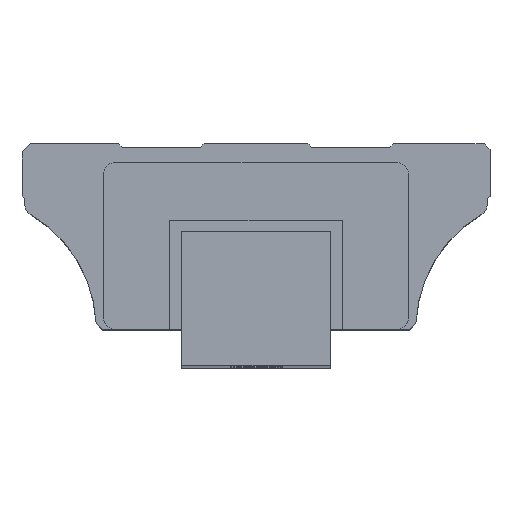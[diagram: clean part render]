
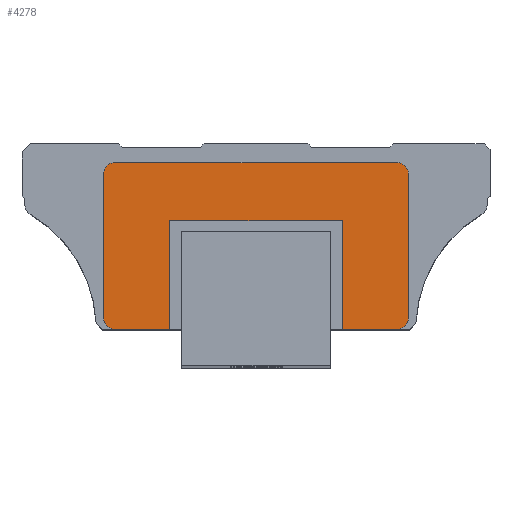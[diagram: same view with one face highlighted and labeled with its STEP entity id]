
A CAD part, top view. The second image highlights one B-rep face of the part: STEP entity #4278.
In plain terms, the highlighted planar face has unit normal (0, 0, 1).
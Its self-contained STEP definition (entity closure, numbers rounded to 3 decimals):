
#3854=CARTESIAN_POINT('',(-2.34,19.6,144.4));
#3855=VERTEX_POINT('',#3854);
#3856=CARTESIAN_POINT('',(-2.34,5.0,144.4));
#3857=VERTEX_POINT('',#3856);
#3858=CARTESIAN_POINT('',(-2.34,19.6,144.4));
#3859=DIRECTION('',(0.0,-1.0,0.0));
#3860=VECTOR('',#3859,1.0);
#3861=LINE('',#3858,#3860);
#3862=EDGE_CURVE('',#3855,#3857,#3861,.T.);
#3894=CARTESIAN_POINT('',(20.86,19.6,144.4));
#3895=VERTEX_POINT('',#3894);
#3896=CARTESIAN_POINT('',(20.86,19.6,144.4));
#3897=DIRECTION('',(-1.0,0.0,0.0));
#3898=VECTOR('',#3897,1.0);
#3899=LINE('',#3896,#3898);
#3900=EDGE_CURVE('',#3895,#3855,#3899,.T.);
#3925=CARTESIAN_POINT('',(20.86,5.0,144.4));
#3926=VERTEX_POINT('',#3925);
#3927=CARTESIAN_POINT('',(20.86,5.0,144.4));
#3928=DIRECTION('',(0.0,1.0,0.0));
#3929=VECTOR('',#3928,1.0);
#3930=LINE('',#3927,#3929);
#3931=EDGE_CURVE('',#3926,#3895,#3930,.T.);
#3982=CARTESIAN_POINT('',(-11.24,26.093,144.4));
#3983=VERTEX_POINT('',#3982);
#3984=CARTESIAN_POINT('',(-9.74,27.45,144.4));
#3985=VERTEX_POINT('',#3984);
#3986=CARTESIAN_POINT('',(-9.734,25.936,144.4));
#3987=DIRECTION('',(0.0,0.0,-1.));
#3988=DIRECTION('',(-0.995,0.104,0.0));
#3989=AXIS2_PLACEMENT_3D('',#3986,#3987,#3988);
#3990=CIRCLE('',#3989,1.514);
#3991=EDGE_CURVE('',#3983,#3985,#3990,.T.);
#4024=CARTESIAN_POINT('',(28.26,27.45,144.4));
#4025=VERTEX_POINT('',#4024);
#4026=CARTESIAN_POINT('',(-9.74,27.45,144.4));
#4027=DIRECTION('',(1.0,0.0,0.0));
#4028=VECTOR('',#4027,1.0);
#4029=LINE('',#4026,#4028);
#4030=EDGE_CURVE('',#3985,#4025,#4029,.T.);
#4055=CARTESIAN_POINT('',(29.76,25.95,144.4));
#4056=VERTEX_POINT('',#4055);
#4057=CARTESIAN_POINT('',(28.26,25.95,144.4));
#4058=DIRECTION('',(0.0,0.0,-1.0));
#4059=DIRECTION('',(0.,1.0,0.0));
#4060=AXIS2_PLACEMENT_3D('',#4057,#4058,#4059);
#4061=CIRCLE('',#4060,1.5);
#4062=EDGE_CURVE('',#4025,#4056,#4061,.T.);
#4088=CARTESIAN_POINT('',(29.76,6.5,144.4));
#4089=VERTEX_POINT('',#4088);
#4090=CARTESIAN_POINT('',(29.76,25.95,144.4));
#4091=DIRECTION('',(0.0,-1.0,0.0));
#4092=VECTOR('',#4091,1.0);
#4093=LINE('',#4090,#4092);
#4094=EDGE_CURVE('',#4056,#4089,#4093,.T.);
#4119=CARTESIAN_POINT('',(28.26,5.0,144.4));
#4120=VERTEX_POINT('',#4119);
#4121=CARTESIAN_POINT('',(28.26,6.5,144.4));
#4122=DIRECTION('',(0.0,0.0,-1.0));
#4123=DIRECTION('',(1.0,0.0,0.0));
#4124=AXIS2_PLACEMENT_3D('',#4121,#4122,#4123);
#4125=CIRCLE('',#4124,1.5);
#4126=EDGE_CURVE('',#4089,#4120,#4125,.T.);
#4152=CARTESIAN_POINT('',(28.26,5.0,144.4));
#4153=DIRECTION('',(-1.0,0.0,0.0));
#4154=VECTOR('',#4153,1.0);
#4155=LINE('',#4152,#4154);
#4156=EDGE_CURVE('',#4120,#3926,#4155,.T.);
#4176=CARTESIAN_POINT('',(-9.74,5.0,144.4));
#4177=VERTEX_POINT('',#4176);
#4178=CARTESIAN_POINT('',(-2.34,5.0,144.4));
#4179=DIRECTION('',(-1.0,0.0,0.0));
#4180=VECTOR('',#4179,1.0);
#4181=LINE('',#4178,#4180);
#4182=EDGE_CURVE('',#3857,#4177,#4181,.T.);
#4209=CARTESIAN_POINT('',(-11.24,6.5,144.4));
#4210=VERTEX_POINT('',#4209);
#4211=CARTESIAN_POINT('',(-9.74,6.5,144.4));
#4212=DIRECTION('',(0.0,0.0,-1.0));
#4213=DIRECTION('',(0.,-1.0,0.0));
#4214=AXIS2_PLACEMENT_3D('',#4211,#4212,#4213);
#4215=CIRCLE('',#4214,1.5);
#4216=EDGE_CURVE('',#4177,#4210,#4215,.T.);
#4242=CARTESIAN_POINT('',(-11.24,6.5,144.4));
#4243=DIRECTION('',(0.0,1.0,0.0));
#4244=VECTOR('',#4243,1.0);
#4245=LINE('',#4242,#4244);
#4246=EDGE_CURVE('',#4210,#3983,#4245,.T.);
#4259=CARTESIAN_POINT('',(-13.29,3.878,144.4));
#4260=DIRECTION('',(0.0,0.0,1.0));
#4261=DIRECTION('',(1.0,0.0,0.0));
#4262=AXIS2_PLACEMENT_3D('',#4259,#4260,#4261);
#4263=PLANE('',#4262);
#4264=ORIENTED_EDGE('',*,*,#3991,.F.);
#4265=ORIENTED_EDGE('',*,*,#4246,.F.);
#4266=ORIENTED_EDGE('',*,*,#4216,.F.);
#4267=ORIENTED_EDGE('',*,*,#4182,.F.);
#4268=ORIENTED_EDGE('',*,*,#3862,.F.);
#4269=ORIENTED_EDGE('',*,*,#3900,.F.);
#4270=ORIENTED_EDGE('',*,*,#3931,.F.);
#4271=ORIENTED_EDGE('',*,*,#4156,.F.);
#4272=ORIENTED_EDGE('',*,*,#4126,.F.);
#4273=ORIENTED_EDGE('',*,*,#4094,.F.);
#4274=ORIENTED_EDGE('',*,*,#4062,.F.);
#4275=ORIENTED_EDGE('',*,*,#4030,.F.);
#4276=EDGE_LOOP('',(#4264,#4265,#4266,#4267,#4268,#4269,#4270,#4271,#4272,#4273,#4274,#4275));
#4277=FACE_OUTER_BOUND('',#4276,.T.);
#4278=ADVANCED_FACE('',(#4277),#4263,.T.);
